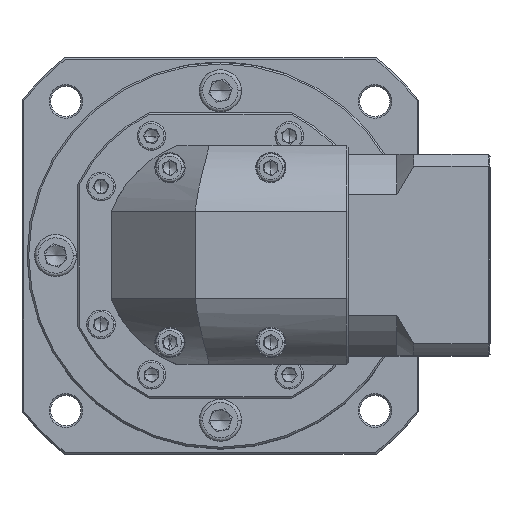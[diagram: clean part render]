
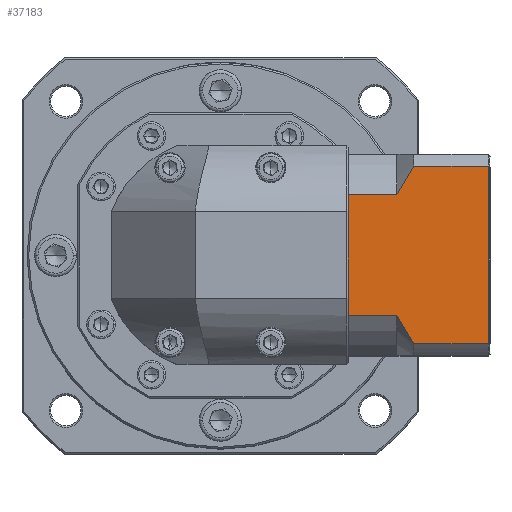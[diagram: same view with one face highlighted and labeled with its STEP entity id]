
A CAD part, top view. The second image highlights one B-rep face of the part: STEP entity #37183.
In plain terms, the highlighted planar face has unit normal (0, 0, 1).
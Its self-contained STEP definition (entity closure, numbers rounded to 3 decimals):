
#2121 = VECTOR ( 'NONE', #100629, 1000. ) ;
#3457 = VECTOR ( 'NONE', #99552, 1000. ) ;
#4083 = AXIS2_PLACEMENT_3D ( 'NONE', #26991, #58540, #68329 ) ;
#6030 = EDGE_CURVE ( 'NONE', #37487, #7631, #55542, .T. ) ;
#7631 = VERTEX_POINT ( 'NONE', #113688 ) ;
#8889 = ORIENTED_EDGE ( 'NONE', *, *, #71226, .F. ) ;
#10515 = CARTESIAN_POINT ( 'NONE',  ( 121.731, 136.626, 38.57 ) ) ;
#10845 = VECTOR ( 'NONE', #99961, 1000. ) ;
#11374 = ORIENTED_EDGE ( 'NONE', *, *, #98136, .T. ) ;
#12603 = LINE ( 'NONE', #58888, #122107 ) ;
#16979 = CARTESIAN_POINT ( 'NONE',  ( 118.504, 94.879, 38.57 ) ) ;
#17060 = DIRECTION ( 'NONE',  ( 1., 0., 0. ) ) ;
#20372 = DIRECTION ( 'NONE',  ( -1., 0., 0. ) ) ;
#21248 = LINE ( 'NONE', #95881, #90923 ) ;
#23626 = CARTESIAN_POINT ( 'NONE',  ( 145.704, 142.907, 38.57 ) ) ;
#24014 = VECTOR ( 'NONE', #17060, 1000. ) ;
#24605 = B_SPLINE_CURVE_WITH_KNOTS ( 'NONE', 3,
 ( #131363, #67888, #36785, #25647, #59041, #58108 ),
 .UNSPECIFIED., .F., .F.,
 ( 4, 2, 4 ),
 ( 0.1, 0.104, 0.109 ),
 .UNSPECIFIED. ) ;
#25464 = DIRECTION ( 'NONE',  ( 0., 1., 0. ) ) ;
#25500 = LINE ( 'NONE', #48300, #2121 ) ;
#25542 = CARTESIAN_POINT ( 'NONE',  ( 104.004, 130.934, 38.57 ) ) ;
#25647 = CARTESIAN_POINT ( 'NONE',  ( 121.729, 89.192, 38.57 ) ) ;
#25747 = ORIENTED_EDGE ( 'NONE', *, *, #36262, .F. ) ;
#26324 = CARTESIAN_POINT ( 'NONE',  ( 104.004, 142.907, 38.57 ) ) ;
#26991 = CARTESIAN_POINT ( 'NONE',  ( 146.204, 142.907, 38.57 ) ) ;
#28551 = VERTEX_POINT ( 'NONE', #78921 ) ;
#35756 = EDGE_CURVE ( 'NONE', #87875, #104277, #25500, .T. ) ;
#36177 = DIRECTION ( 'NONE',  ( 0., -1., 0. ) ) ;
#36262 = EDGE_CURVE ( 'NONE', #135415, #28551, #55027, .T. ) ;
#36785 = CARTESIAN_POINT ( 'NONE',  ( 120.054, 91.997, 38.57 ) ) ;
#37183 = ADVANCED_FACE ( 'NONE', ( #61491 ), #122931, .F. ) ;
#37487 = VERTEX_POINT ( 'NONE', #137314 ) ;
#37997 = CARTESIAN_POINT ( 'NONE',  ( 118.504, 94.879, 38.57 ) ) ;
#39448 = LINE ( 'NONE', #16979, #115774 ) ;
#39674 = EDGE_CURVE ( 'NONE', #37487, #28551, #67297, .T. ) ;
#41086 = EDGE_CURVE ( 'NONE', #93423, #42632, #24605, .T. ) ;
#42632 = VERTEX_POINT ( 'NONE', #126215 ) ;
#42946 = ORIENTED_EDGE ( 'NONE', *, *, #6030, .F. ) ;
#43443 = CARTESIAN_POINT ( 'NONE',  ( 118.504, 130.934, 38.57 ) ) ;
#43913 = CARTESIAN_POINT ( 'NONE',  ( 119.252, 132.386, 38.57 ) ) ;
#45481 = ORIENTED_EDGE ( 'NONE', *, *, #55950, .T. ) ;
#48300 = CARTESIAN_POINT ( 'NONE',  ( 104.004, 142.907, 38.57 ) ) ;
#48624 = CARTESIAN_POINT ( 'NONE',  ( 118.504, 139.364, 38.57 ) ) ;
#52752 = CARTESIAN_POINT ( 'NONE',  ( 122.604, 138.004, 38.57 ) ) ;
#53772 = ORIENTED_EDGE ( 'NONE', *, *, #39674, .T. ) ;
#54874 = LINE ( 'NONE', #23626, #56476 ) ;
#55027 = LINE ( 'NONE', #109764, #3457 ) ;
#55542 = LINE ( 'NONE', #48624, #24014 ) ;
#55950 = EDGE_CURVE ( 'NONE', #135415, #67510, #58925, .T. ) ;
#56476 = VECTOR ( 'NONE', #25464, 1000. ) ;
#58108 = CARTESIAN_POINT ( 'NONE',  ( 123.504, 86.449, 38.57 ) ) ;
#58540 = DIRECTION ( 'NONE',  ( 0., 0., -1. ) ) ;
#58888 = CARTESIAN_POINT ( 'NONE',  ( 104.004, 142.907, 38.57 ) ) ;
#58925 = LINE ( 'NONE', #26324, #10845 ) ;
#59041 = CARTESIAN_POINT ( 'NONE',  ( 122.602, 87.812, 38.57 ) ) ;
#60748 = CARTESIAN_POINT ( 'NONE',  ( 104.004, 95.87, 38.57 ) ) ;
#61491 = FACE_OUTER_BOUND ( 'NONE', #61692, .T. ) ;
#61692 = EDGE_LOOP ( 'NONE', ( #8889, #11374, #42946, #53772, #25747, #45481, #98410, #123109, #77446, #83194 ) ) ;
#67297 = B_SPLINE_CURVE_WITH_KNOTS ( 'NONE', 3,
 ( #81978, #52752, #10515, #95350, #43913, #43443 ),
 .UNSPECIFIED., .F., .F.,
 ( 4, 2, 4 ),
 ( 0.052, 0.057, 0.062 ),
 .UNSPECIFIED. ) ;
#67510 = VERTEX_POINT ( 'NONE', #123583 ) ;
#67888 = CARTESIAN_POINT ( 'NONE',  ( 119.254, 93.422, 38.57 ) ) ;
#68329 = DIRECTION ( 'NONE',  ( 1., 0., 0. ) ) ;
#71226 = EDGE_CURVE ( 'NONE', #114387, #42632, #21248, .T. ) ;
#77446 = ORIENTED_EDGE ( 'NONE', *, *, #116742, .F. ) ;
#78921 = CARTESIAN_POINT ( 'NONE',  ( 118.504, 130.934, 38.57 ) ) ;
#81978 = CARTESIAN_POINT ( 'NONE',  ( 123.504, 139.364, 38.57 ) ) ;
#83194 = ORIENTED_EDGE ( 'NONE', *, *, #41086, .T. ) ;
#86014 = EDGE_CURVE ( 'NONE', #67510, #87875, #12603, .T. ) ;
#87875 = VERTEX_POINT ( 'NONE', #60748 ) ;
#90923 = VECTOR ( 'NONE', #20372, 1000. ) ;
#93423 = VERTEX_POINT ( 'NONE', #37997 ) ;
#95234 = CARTESIAN_POINT ( 'NONE',  ( 104.004, 94.879, 38.57 ) ) ;
#95350 = CARTESIAN_POINT ( 'NONE',  ( 120.055, 133.818, 38.57 ) ) ;
#95881 = CARTESIAN_POINT ( 'NONE',  ( 118.504, 86.449, 38.57 ) ) ;
#98136 = EDGE_CURVE ( 'NONE', #114387, #7631, #54874, .T. ) ;
#98410 = ORIENTED_EDGE ( 'NONE', *, *, #86014, .T. ) ;
#99552 = DIRECTION ( 'NONE',  ( 1., 0., 0. ) ) ;
#99961 = DIRECTION ( 'NONE',  ( 0., -1., 0. ) ) ;
#100629 = DIRECTION ( 'NONE',  ( 0., -1., 0. ) ) ;
#101818 = DIRECTION ( 'NONE',  ( -1., 0., 0. ) ) ;
#104277 = VERTEX_POINT ( 'NONE', #95234 ) ;
#109764 = CARTESIAN_POINT ( 'NONE',  ( 118.504, 130.934, 38.57 ) ) ;
#113546 = CARTESIAN_POINT ( 'NONE',  ( 145.704, 86.449, 38.57 ) ) ;
#113688 = CARTESIAN_POINT ( 'NONE',  ( 145.704, 139.364, 38.57 ) ) ;
#114387 = VERTEX_POINT ( 'NONE', #113546 ) ;
#115774 = VECTOR ( 'NONE', #101818, 1000. ) ;
#116742 = EDGE_CURVE ( 'NONE', #93423, #104277, #39448, .T. ) ;
#122107 = VECTOR ( 'NONE', #36177, 1000. ) ;
#122931 = PLANE ( 'NONE',  #4083 ) ;
#123109 = ORIENTED_EDGE ( 'NONE', *, *, #35756, .T. ) ;
#123583 = CARTESIAN_POINT ( 'NONE',  ( 104.004, 129.943, 38.57 ) ) ;
#126215 = CARTESIAN_POINT ( 'NONE',  ( 123.504, 86.449, 38.57 ) ) ;
#131363 = CARTESIAN_POINT ( 'NONE',  ( 118.504, 94.879, 38.57 ) ) ;
#135415 = VERTEX_POINT ( 'NONE', #25542 ) ;
#137314 = CARTESIAN_POINT ( 'NONE',  ( 123.504, 139.364, 38.57 ) ) ;
